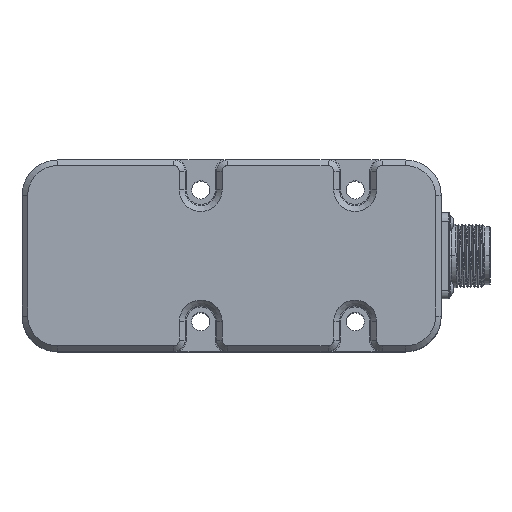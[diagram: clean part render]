
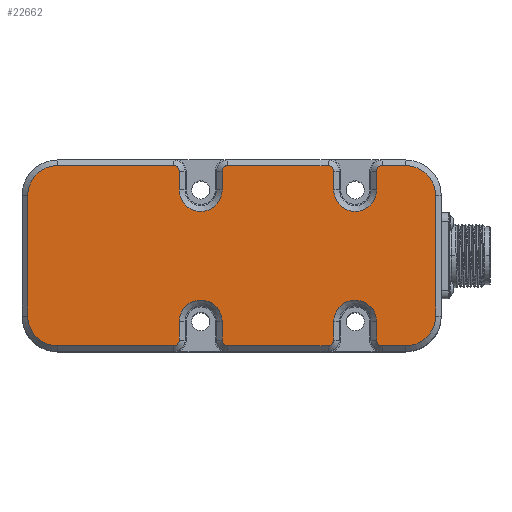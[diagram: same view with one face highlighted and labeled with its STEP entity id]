
A CAD part, top view. The second image highlights one B-rep face of the part: STEP entity #22662.
In plain terms, the highlighted planar face has unit normal (0, 0, 1).
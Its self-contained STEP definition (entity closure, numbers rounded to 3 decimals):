
#6121=CARTESIAN_POINT('',(23.5,-29.5,115.2));
#6122=DIRECTION('',(0.,0.,1.));
#6123=DIRECTION('',(0.,-1.,0.));
#6124=AXIS2_PLACEMENT_3D('',#6121,#6122,#6123);
#6126=DIRECTION('',(1.,0.,0.));
#6127=VECTOR('',#6126,40.6);
#6128=CARTESIAN_POINT('',(-17.1,-31.5,115.2));
#6129=LINE('',#6128,#6127);
#6130=CARTESIAN_POINT('',(-17.1,-21.1,115.2));
#6131=DIRECTION('',(0.,0.,1.));
#6132=DIRECTION('',(-1.,0.,0.));
#6133=AXIS2_PLACEMENT_3D('',#6130,#6131,#6132);
#6135=DIRECTION('',(0.,-1.,0.));
#6136=VECTOR('',#6135,42.2);
#6137=CARTESIAN_POINT('',(-27.5,21.1,115.2));
#6138=LINE('',#6137,#6136);
#6139=CARTESIAN_POINT('',(-17.1,21.1,115.2));
#6140=DIRECTION('',(0.,0.,1.));
#6141=DIRECTION('',(0.,1.,0.));
#6142=AXIS2_PLACEMENT_3D('',#6139,#6140,#6141);
#6144=DIRECTION('',(-1.,0.,0.));
#6145=VECTOR('',#6144,40.6);
#6146=CARTESIAN_POINT('',(23.5,31.5,115.2));
#6147=LINE('',#6146,#6145);
#6148=CARTESIAN_POINT('',(23.5,29.5,115.2));
#6149=DIRECTION('',(0.,0.,1.));
#6150=DIRECTION('',(1.,0.,0.));
#6151=AXIS2_PLACEMENT_3D('',#6148,#6149,#6150);
#6153=DIRECTION('',(0.,1.,0.));
#6154=VECTOR('',#6153,6.5);
#6155=CARTESIAN_POINT('',(25.5,23.,115.2));
#6156=LINE('',#6155,#6154);
#6157=CARTESIAN_POINT('',(33.,23.,115.2));
#6158=DIRECTION('',(0.,0.,-1.));
#6159=DIRECTION('',(1.,0.,0.));
#6160=AXIS2_PLACEMENT_3D('',#6157,#6158,#6159);
#6162=DIRECTION('',(0.,-1.,0.));
#6163=VECTOR('',#6162,6.5);
#6164=CARTESIAN_POINT('',(40.5,29.5,115.2));
#6165=LINE('',#6164,#6163);
#6166=CARTESIAN_POINT('',(42.5,29.5,115.2));
#6167=DIRECTION('',(0.,0.,1.));
#6168=DIRECTION('',(0.,1.,0.));
#6169=AXIS2_PLACEMENT_3D('',#6166,#6167,#6168);
#6171=DIRECTION('',(-1.,0.,0.));
#6172=VECTOR('',#6171,35.);
#6173=CARTESIAN_POINT('',(77.5,31.5,115.2));
#6174=LINE('',#6173,#6172);
#6175=CARTESIAN_POINT('',(77.5,29.5,115.2));
#6176=DIRECTION('',(0.,0.,1.));
#6177=DIRECTION('',(1.,0.,0.));
#6178=AXIS2_PLACEMENT_3D('',#6175,#6176,#6177);
#6180=DIRECTION('',(0.,1.,0.));
#6181=VECTOR('',#6180,6.5);
#6182=CARTESIAN_POINT('',(79.5,23.,115.2));
#6183=LINE('',#6182,#6181);
#6184=CARTESIAN_POINT('',(87.,23.,115.2));
#6185=DIRECTION('',(0.,0.,-1.));
#6186=DIRECTION('',(1.,0.,0.));
#6187=AXIS2_PLACEMENT_3D('',#6184,#6185,#6186);
#6189=DIRECTION('',(0.,-1.,0.));
#6190=VECTOR('',#6189,6.5);
#6191=CARTESIAN_POINT('',(94.5,29.5,115.2));
#6192=LINE('',#6191,#6190);
#6193=CARTESIAN_POINT('',(96.5,29.5,115.2));
#6194=DIRECTION('',(0.,0.,1.));
#6195=DIRECTION('',(0.,1.,0.));
#6196=AXIS2_PLACEMENT_3D('',#6193,#6194,#6195);
#6198=DIRECTION('',(-1.,0.,0.));
#6199=VECTOR('',#6198,8.2);
#6200=CARTESIAN_POINT('',(104.7,31.5,115.2));
#6201=LINE('',#6200,#6199);
#6202=CARTESIAN_POINT('',(104.7,21.1,115.2));
#6203=DIRECTION('',(0.,0.,1.));
#6204=DIRECTION('',(1.,0.,0.));
#6205=AXIS2_PLACEMENT_3D('',#6202,#6203,#6204);
#6207=DIRECTION('',(0.,1.,0.));
#6208=VECTOR('',#6207,42.2);
#6209=CARTESIAN_POINT('',(115.1,-21.1,115.2));
#6210=LINE('',#6209,#6208);
#6211=CARTESIAN_POINT('',(104.7,-21.1,115.2));
#6212=DIRECTION('',(0.,0.,1.));
#6213=DIRECTION('',(0.,-1.,0.));
#6214=AXIS2_PLACEMENT_3D('',#6211,#6212,#6213);
#6216=DIRECTION('',(1.,0.,0.));
#6217=VECTOR('',#6216,8.2);
#6218=CARTESIAN_POINT('',(96.5,-31.5,115.2));
#6219=LINE('',#6218,#6217);
#6220=CARTESIAN_POINT('',(96.5,-29.5,115.2));
#6221=DIRECTION('',(0.,0.,1.));
#6222=DIRECTION('',(-1.,0.,0.));
#6223=AXIS2_PLACEMENT_3D('',#6220,#6221,#6222);
#6225=DIRECTION('',(0.,-1.,0.));
#6226=VECTOR('',#6225,6.5);
#6227=CARTESIAN_POINT('',(94.5,-23.,115.2));
#6228=LINE('',#6227,#6226);
#6229=CARTESIAN_POINT('',(87.,-23.,115.2));
#6230=DIRECTION('',(0.,0.,-1.));
#6231=DIRECTION('',(-1.,0.,0.));
#6232=AXIS2_PLACEMENT_3D('',#6229,#6230,#6231);
#6234=DIRECTION('',(0.,1.,0.));
#6235=VECTOR('',#6234,6.5);
#6236=CARTESIAN_POINT('',(79.5,-29.5,115.2));
#6237=LINE('',#6236,#6235);
#6238=CARTESIAN_POINT('',(77.5,-29.5,115.2));
#6239=DIRECTION('',(0.,0.,1.));
#6240=DIRECTION('',(0.,-1.,0.));
#6241=AXIS2_PLACEMENT_3D('',#6238,#6239,#6240);
#6243=DIRECTION('',(1.,0.,0.));
#6244=VECTOR('',#6243,35.);
#6245=CARTESIAN_POINT('',(42.5,-31.5,115.2));
#6246=LINE('',#6245,#6244);
#6247=CARTESIAN_POINT('',(42.5,-29.5,115.2));
#6248=DIRECTION('',(0.,0.,1.));
#6249=DIRECTION('',(-1.,0.,0.));
#6250=AXIS2_PLACEMENT_3D('',#6247,#6248,#6249);
#6252=DIRECTION('',(0.,-1.,0.));
#6253=VECTOR('',#6252,6.5);
#6254=CARTESIAN_POINT('',(40.5,-23.,115.2));
#6255=LINE('',#6254,#6253);
#6256=CARTESIAN_POINT('',(33.,-23.,115.2));
#6257=DIRECTION('',(0.,0.,-1.));
#6258=DIRECTION('',(-1.,0.,0.));
#6259=AXIS2_PLACEMENT_3D('',#6256,#6257,#6258);
#6261=DIRECTION('',(0.,1.,0.));
#6262=VECTOR('',#6261,6.5);
#6263=CARTESIAN_POINT('',(25.5,-29.5,115.2));
#6264=LINE('',#6263,#6262);
#13187=CARTESIAN_POINT('',(23.5,-31.5,115.2));
#13188=CARTESIAN_POINT('',(25.5,-29.5,115.2));
#13189=VERTEX_POINT('',#13187);
#13190=VERTEX_POINT('',#13188);
#13195=CARTESIAN_POINT('',(25.5,-23.,115.2));
#13196=VERTEX_POINT('',#13195);
#13199=CARTESIAN_POINT('',(40.5,-23.,115.2));
#13200=VERTEX_POINT('',#13199);
#13201=CARTESIAN_POINT('',(40.5,-29.5,115.2));
#13202=VERTEX_POINT('',#13201);
#13207=CARTESIAN_POINT('',(42.5,-31.5,115.2));
#13208=VERTEX_POINT('',#13207);
#13211=CARTESIAN_POINT('',(96.5,-31.5,115.2));
#13212=CARTESIAN_POINT('',(104.7,-31.5,115.2));
#13213=VERTEX_POINT('',#13211);
#13214=VERTEX_POINT('',#13212);
#13219=CARTESIAN_POINT('',(77.5,-31.5,115.2));
#13220=CARTESIAN_POINT('',(79.5,-29.5,115.2));
#13221=VERTEX_POINT('',#13219);
#13222=VERTEX_POINT('',#13220);
#13227=CARTESIAN_POINT('',(79.5,-23.,115.2));
#13228=VERTEX_POINT('',#13227);
#13231=CARTESIAN_POINT('',(94.5,-23.,115.2));
#13232=VERTEX_POINT('',#13231);
#13233=CARTESIAN_POINT('',(94.5,-29.5,115.2));
#13234=VERTEX_POINT('',#13233);
#13239=CARTESIAN_POINT('',(115.1,-21.1,115.2));
#13240=VERTEX_POINT('',#13239);
#13243=CARTESIAN_POINT('',(115.1,21.1,115.2));
#13244=VERTEX_POINT('',#13243);
#13247=CARTESIAN_POINT('',(104.7,31.5,115.2));
#13248=VERTEX_POINT('',#13247);
#13251=CARTESIAN_POINT('',(94.5,29.5,115.2));
#13252=CARTESIAN_POINT('',(94.5,23.,115.2));
#13253=VERTEX_POINT('',#13251);
#13254=VERTEX_POINT('',#13252);
#13259=CARTESIAN_POINT('',(79.5,23.,115.2));
#13260=VERTEX_POINT('',#13259);
#13261=CARTESIAN_POINT('',(79.5,29.5,115.2));
#13262=VERTEX_POINT('',#13261);
#13267=CARTESIAN_POINT('',(77.5,31.5,115.2));
#13268=VERTEX_POINT('',#13267);
#13271=CARTESIAN_POINT('',(42.5,31.5,115.2));
#13272=VERTEX_POINT('',#13271);
#13275=CARTESIAN_POINT('',(40.5,29.5,115.2));
#13276=VERTEX_POINT('',#13275);
#13279=CARTESIAN_POINT('',(40.5,23.,115.2));
#13280=VERTEX_POINT('',#13279);
#13283=CARTESIAN_POINT('',(25.5,23.,115.2));
#13284=VERTEX_POINT('',#13283);
#13285=CARTESIAN_POINT('',(25.5,29.5,115.2));
#13286=VERTEX_POINT('',#13285);
#13291=CARTESIAN_POINT('',(23.5,31.5,115.2));
#13292=VERTEX_POINT('',#13291);
#13295=CARTESIAN_POINT('',(-17.1,31.5,115.2));
#13296=VERTEX_POINT('',#13295);
#13299=CARTESIAN_POINT('',(-27.5,21.1,115.2));
#13300=VERTEX_POINT('',#13299);
#13303=CARTESIAN_POINT('',(-27.5,-21.1,115.2));
#13304=VERTEX_POINT('',#13303);
#13307=CARTESIAN_POINT('',(-17.1,-31.5,115.2));
#13308=VERTEX_POINT('',#13307);
#13315=CARTESIAN_POINT('',(96.5,31.5,115.2));
#13316=VERTEX_POINT('',#13315);
#22592=CARTESIAN_POINT('',(43.8,0.,115.2));
#22593=DIRECTION('',(0.,0.,1.));
#22594=DIRECTION('',(-1.,0.,0.));
#22595=AXIS2_PLACEMENT_3D('',#22592,#22593,#22594);
#22596=PLANE('',#22595);
#22598=ORIENTED_EDGE('',*,*,#22597,.F.);
#22600=ORIENTED_EDGE('',*,*,#22599,.F.);
#22601=ORIENTED_EDGE('',*,*,#22582,.F.);
#22603=ORIENTED_EDGE('',*,*,#22602,.F.);
#22605=ORIENTED_EDGE('',*,*,#22604,.F.);
#22607=ORIENTED_EDGE('',*,*,#22606,.F.);
#22609=ORIENTED_EDGE('',*,*,#22608,.F.);
#22611=ORIENTED_EDGE('',*,*,#22610,.F.);
#22613=ORIENTED_EDGE('',*,*,#22612,.F.);
#22615=ORIENTED_EDGE('',*,*,#22614,.F.);
#22617=ORIENTED_EDGE('',*,*,#22616,.F.);
#22619=ORIENTED_EDGE('',*,*,#22618,.F.);
#22621=ORIENTED_EDGE('',*,*,#22620,.F.);
#22623=ORIENTED_EDGE('',*,*,#22622,.F.);
#22625=ORIENTED_EDGE('',*,*,#22624,.F.);
#22627=ORIENTED_EDGE('',*,*,#22626,.F.);
#22629=ORIENTED_EDGE('',*,*,#22628,.F.);
#22631=ORIENTED_EDGE('',*,*,#22630,.F.);
#22633=ORIENTED_EDGE('',*,*,#22632,.F.);
#22635=ORIENTED_EDGE('',*,*,#22634,.F.);
#22637=ORIENTED_EDGE('',*,*,#22636,.F.);
#22639=ORIENTED_EDGE('',*,*,#22638,.F.);
#22641=ORIENTED_EDGE('',*,*,#22640,.F.);
#22643=ORIENTED_EDGE('',*,*,#22642,.F.);
#22645=ORIENTED_EDGE('',*,*,#22644,.F.);
#22647=ORIENTED_EDGE('',*,*,#22646,.F.);
#22649=ORIENTED_EDGE('',*,*,#22648,.F.);
#22651=ORIENTED_EDGE('',*,*,#22650,.F.);
#22653=ORIENTED_EDGE('',*,*,#22652,.F.);
#22655=ORIENTED_EDGE('',*,*,#22654,.F.);
#22657=ORIENTED_EDGE('',*,*,#22656,.F.);
#22659=ORIENTED_EDGE('',*,*,#22658,.F.);
#22660=EDGE_LOOP('',(#22598,#22600,#22601,#22603,#22605,#22607,#22609,#22611,
#22613,#22615,#22617,#22619,#22621,#22623,#22625,#22627,#22629,#22631,#22633,
#22635,#22637,#22639,#22641,#22643,#22645,#22647,#22649,#22651,#22653,#22655,
#22657,#22659));
#22661=FACE_OUTER_BOUND('',#22660,.F.);
#22662=ADVANCED_FACE('',(#22661),#22596,.T.);
#6125=CIRCLE('',#6124,2.);
#6134=CIRCLE('',#6133,10.4);
#6143=CIRCLE('',#6142,10.4);
#6152=CIRCLE('',#6151,2.);
#6161=CIRCLE('',#6160,7.5);
#6170=CIRCLE('',#6169,2.);
#6179=CIRCLE('',#6178,2.);
#6188=CIRCLE('',#6187,7.5);
#6197=CIRCLE('',#6196,2.);
#6206=CIRCLE('',#6205,10.4);
#6215=CIRCLE('',#6214,10.4);
#6224=CIRCLE('',#6223,2.);
#6233=CIRCLE('',#6232,7.5);
#6242=CIRCLE('',#6241,2.);
#6251=CIRCLE('',#6250,2.);
#6260=CIRCLE('',#6259,7.5);
#22582=EDGE_CURVE('',#13304,#13308,#6134,.T.);
#22597=EDGE_CURVE('',#13189,#13190,#6125,.T.);
#22599=EDGE_CURVE('',#13308,#13189,#6129,.T.);
#22602=EDGE_CURVE('',#13300,#13304,#6138,.T.);
#22604=EDGE_CURVE('',#13296,#13300,#6143,.T.);
#22606=EDGE_CURVE('',#13292,#13296,#6147,.T.);
#22608=EDGE_CURVE('',#13286,#13292,#6152,.T.);
#22610=EDGE_CURVE('',#13284,#13286,#6156,.T.);
#22612=EDGE_CURVE('',#13280,#13284,#6161,.T.);
#22614=EDGE_CURVE('',#13276,#13280,#6165,.T.);
#22616=EDGE_CURVE('',#13272,#13276,#6170,.T.);
#22618=EDGE_CURVE('',#13268,#13272,#6174,.T.);
#22620=EDGE_CURVE('',#13262,#13268,#6179,.T.);
#22622=EDGE_CURVE('',#13260,#13262,#6183,.T.);
#22624=EDGE_CURVE('',#13254,#13260,#6188,.T.);
#22626=EDGE_CURVE('',#13253,#13254,#6192,.T.);
#22628=EDGE_CURVE('',#13316,#13253,#6197,.T.);
#22630=EDGE_CURVE('',#13248,#13316,#6201,.T.);
#22632=EDGE_CURVE('',#13244,#13248,#6206,.T.);
#22634=EDGE_CURVE('',#13240,#13244,#6210,.T.);
#22636=EDGE_CURVE('',#13214,#13240,#6215,.T.);
#22638=EDGE_CURVE('',#13213,#13214,#6219,.T.);
#22640=EDGE_CURVE('',#13234,#13213,#6224,.T.);
#22642=EDGE_CURVE('',#13232,#13234,#6228,.T.);
#22644=EDGE_CURVE('',#13228,#13232,#6233,.T.);
#22646=EDGE_CURVE('',#13222,#13228,#6237,.T.);
#22648=EDGE_CURVE('',#13221,#13222,#6242,.T.);
#22650=EDGE_CURVE('',#13208,#13221,#6246,.T.);
#22652=EDGE_CURVE('',#13202,#13208,#6251,.T.);
#22654=EDGE_CURVE('',#13200,#13202,#6255,.T.);
#22656=EDGE_CURVE('',#13196,#13200,#6260,.T.);
#22658=EDGE_CURVE('',#13190,#13196,#6264,.T.);
